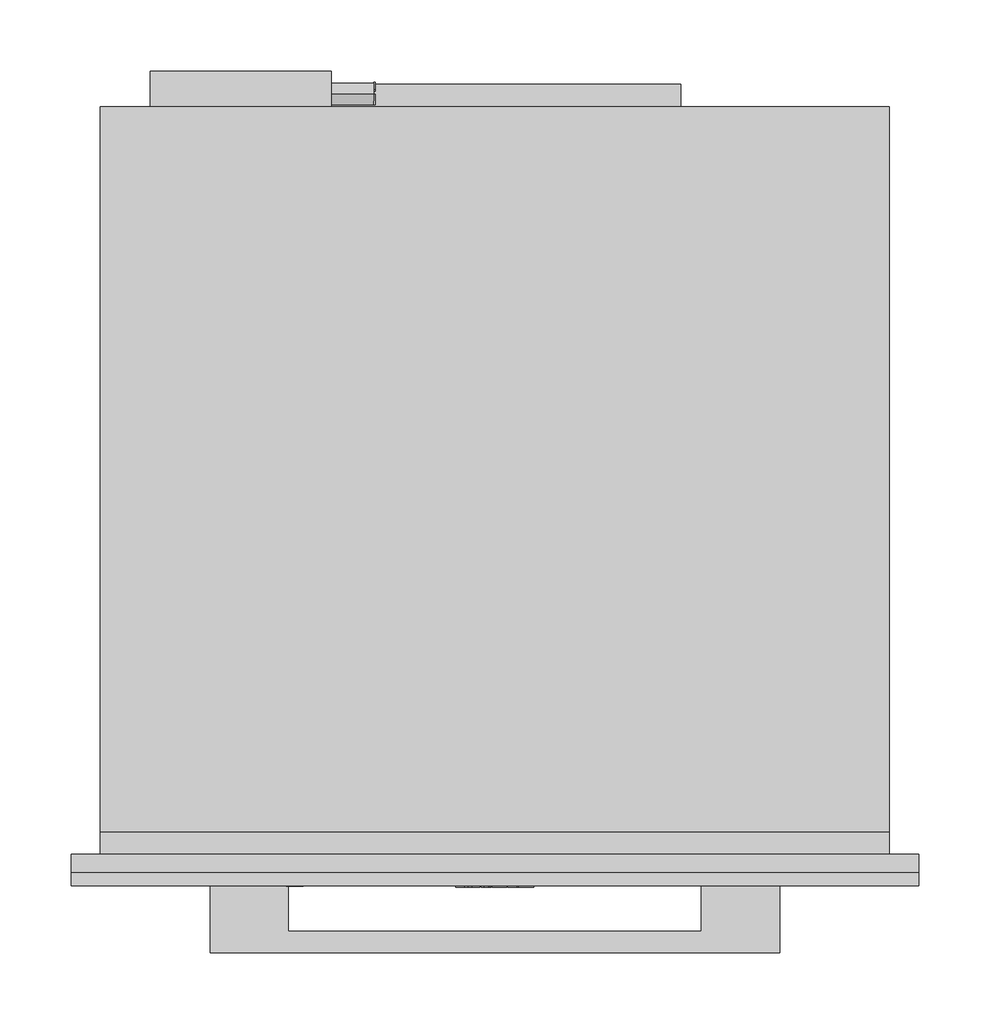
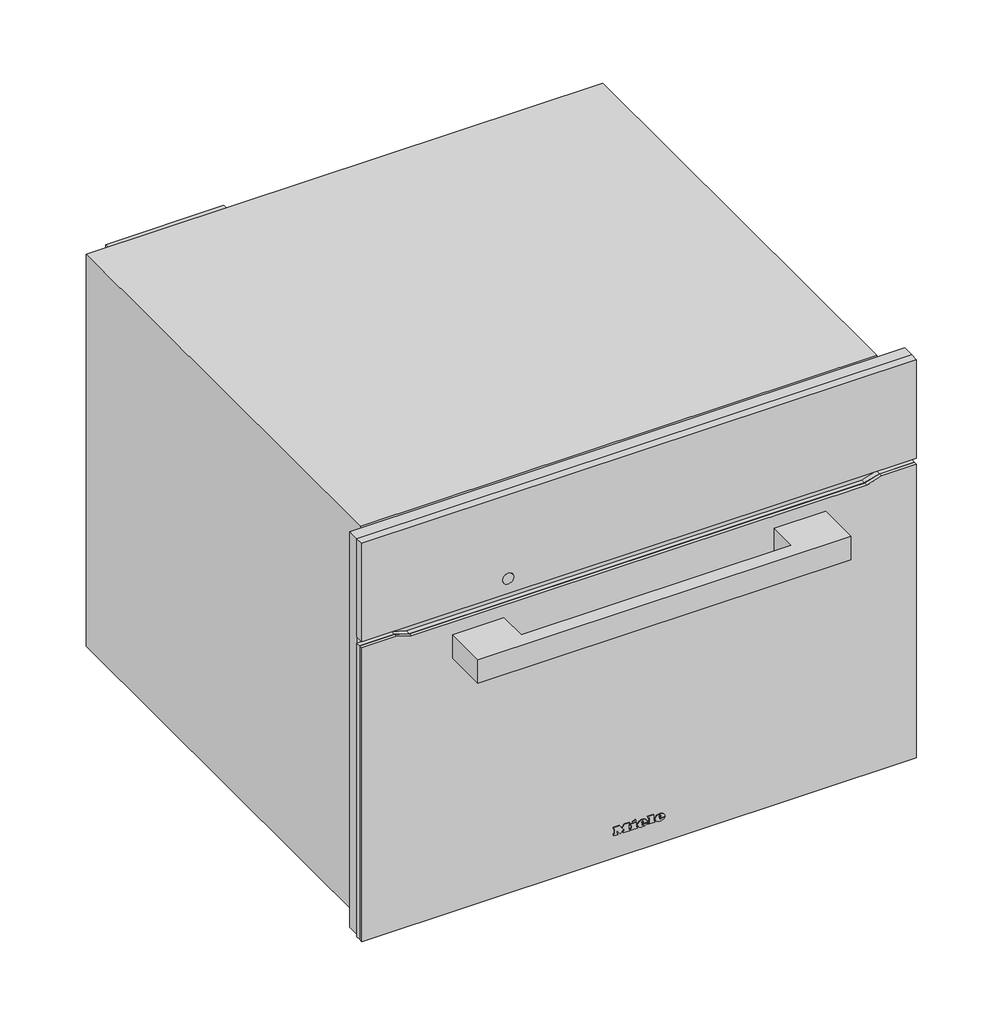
# Not in any storey: 1 proxy.
"""IFC4 building model written with IfcOpenShell, lengths in millimetres."""

from ifc_helpers import new_model, si_unit, origin, place, context, project, spatial, transform, mapped, element, save
from components import specialty_equipment_cb0ab7d2

model = new_model("IFC4")

# Units and contexts
model_context = context("Model", 3, world=origin())
ifc_project = project(units=[si_unit("LENGTHUNIT", "METRE", prefix="MILLI")], contexts=[model_context])

# Site, building
site = spatial("IfcSite", under=ifc_project)
building = spatial("IfcBuilding", under=site)

# Proxy
placement = place(None, origin())
specialty_equipment_shape = specialty_equipment_cb0ab7d2(model_context)
element("IfcBuildingElementProxy", 1, Name="11111210_CH_H7840BM_GRGR : 22784036_CH_11111210_H7840BM_GRGR", ObjectType="11111210_CH_H7840BM_GRGR : 22784036_CH_11111210_H7840BM_GRGR", at=placement, inside=building, context=model_context, shape_type="MappedRepresentation", body=[
    mapped(specialty_equipment_shape, transform((0.0, 0.0, 0.0), x_axis=(1.0, 0.0, 0.0), y_axis=(0.0, 1.0, 0.0), z_axis=(0.0, 0.0, 1.0))),
])

save(model, "model.ifc")
